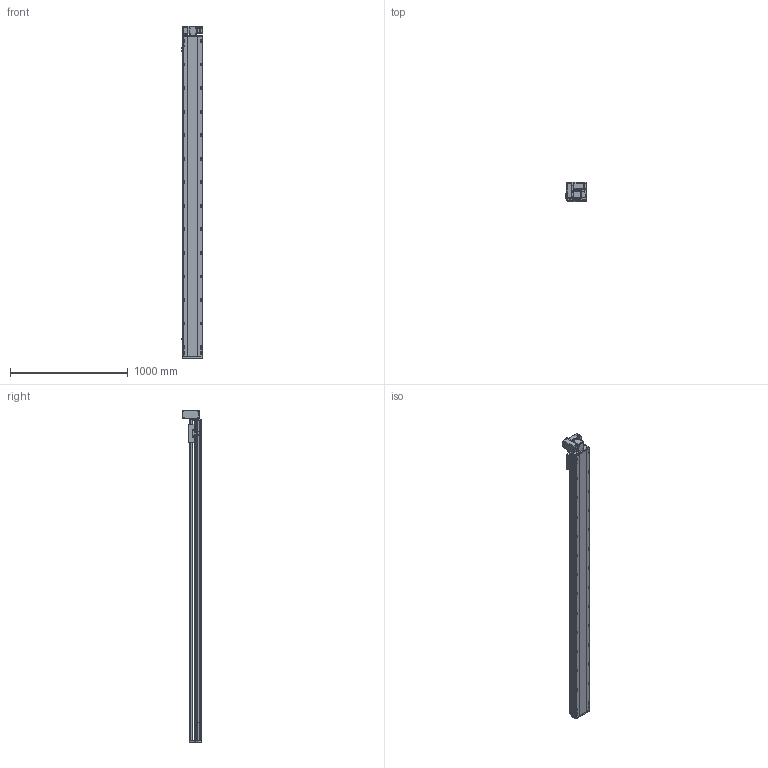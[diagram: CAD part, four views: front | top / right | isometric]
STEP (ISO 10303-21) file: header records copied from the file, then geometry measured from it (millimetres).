
FILE_DESCRIPTION (( 'STEP AP214' ), '1' );
FILE_NAME ('RTB17S-XX-2450-LW-M40-C4.STEP', '2025-12-11T07:17:06', ( '' ), ( '' ), 'SwSTEP 2.0', 'SolidWorks 2018', '' );
FILE_SCHEMA (( 'AUTOMOTIVE_DESIGN' ));
Length unit declared in the file: millimetre
Products named in the file (14): RTB17-R-011菁釱^RTB17S-XX-XX-LW-M40-C4; RTH13-BL-012覜茼え俋离^RTB17S-XX-XX-LW-M40-C4; RTB14-L-017P^RTB17S-LW-々湍釱蚾饜-400W_RTB17S-XX-XX-LW-M40-C4; RTB14-L-008-M20--萇儂啣^RTB17S-LW-々湍釱蚾饜-400W_RTB17S-XX-XX-LW-M40-C4; RTB14-L-018P^RTB17S-LW-々湍釱蚾饜-400W_RTB17S-XX-XX-LW-M40-C4; RTB14-L-005P--轴承塑胶压盖^RTB17S-LW-皮带座装配-400W_RTB17S-XX-XX-LW-M40-C4; RTB17S-L-004佪裝蹟譫蟀諉釱^RTB17S-XX-XX-LW-M40-C4; RTB17S-L-007奻裔^RTB17S-XX-XX-LW-M40-C4; OMRON EE-SX672 传感器^RTB17S-XX-XX-LW-M40-C4; RTB17S-XX-2450-LW-M40-C4; RTB17S-L-014-T20--々湍釱^RTB17S-LW-々湍釱蚾饜-400W_RTB17S-XX-XX-LW-M40-C4; RTB17S-LW-々湍釱蚾饜-400W^RTB17S-XX-XX-LW-M40-C4; RTB17S-L-001耜醱啣^RTB17S-XX-XX-LW-M40-C4; 400W侜督萇儂^RTB17S-XX-XX-LW-M40-C4
Assembly tree (16 placements, depth 3):
  RTB17S-XX-2450-LW-M40-C4
    RTB17-R-011菁釱^RTB17S-XX-XX-LW-M40-C4
    RTB17S-L-007奻裔^RTB17S-XX-XX-LW-M40-C4
    OMRON EE-SX672 传感器^RTB17S-XX-XX-LW-M40-C4  x3
    RTB17S-L-001耜醱啣^RTB17S-XX-XX-LW-M40-C4
    400W侜督萇儂^RTB17S-XX-XX-LW-M40-C4
    RTB17S-L-004佪裝蹟譫蟀諉釱^RTB17S-XX-XX-LW-M40-C4
    RTH13-BL-012覜茼え俋离^RTB17S-XX-XX-LW-M40-C4
    RTB17S-LW-々湍釱蚾饜-400W^RTB17S-XX-XX-LW-M40-C4
      RTB17S-L-014-T20--々湍釱^RTB17S-LW-々湍釱蚾饜-400W_RTB17S-XX-XX-LW-M40-C4
      RTB14-L-005P--轴承塑胶压盖^RTB17S-LW-皮带座装配-400W_RTB17S-XX-XX-LW-M40-C4
      RTB14-L-008-M20--萇儂啣^RTB17S-LW-々湍釱蚾饜-400W_RTB17S-XX-XX-LW-M40-C4
      RTB14-L-017P^RTB17S-LW-々湍釱蚾饜-400W_RTB17S-XX-XX-LW-M40-C4  x2
      RTB14-L-018P^RTB17S-LW-々湍釱蚾饜-400W_RTB17S-XX-XX-LW-M40-C4
Bounding box: 186 x 160.5 x 2822.5 mm (x, y, z)
Volume: 24193735.4 mm3; surface area: 2789336 mm2
Topology: 15 solids, 15 shells, 2333 faces, 6519 edges, 4257 vertices
Faces by surface type: plane 1084, cylinder 801, bspline 301, cone 139, torus 8
Entity records: 68777 total; most frequent: CARTESIAN_POINT 19524, ORIENTED_EDGE 9882, DIRECTION 9116, EDGE_CURVE 4941, VERTEX_POINT 3245, AXIS2_PLACEMENT_3D 3175, VECTOR 2766, LINE 2766
